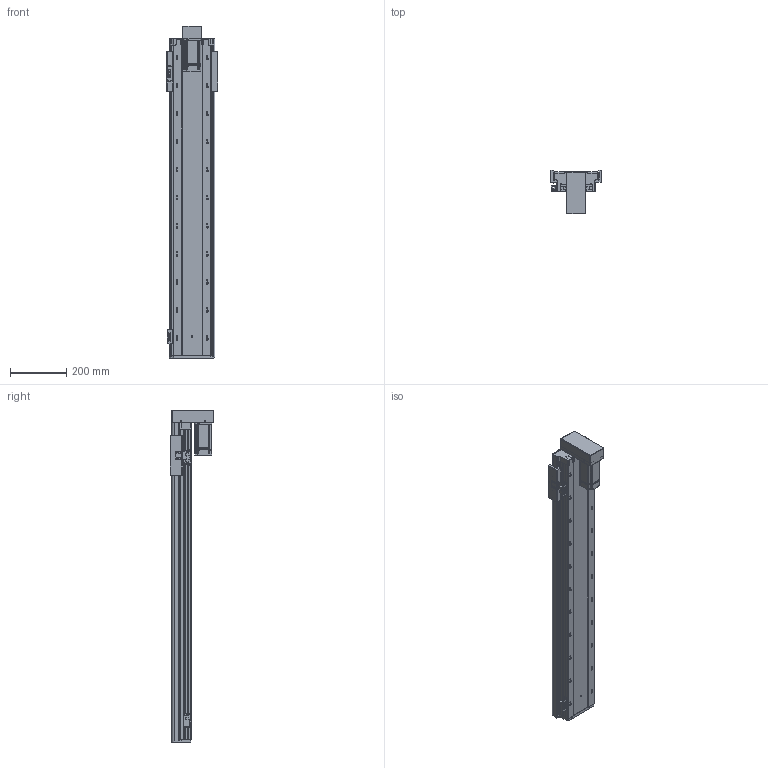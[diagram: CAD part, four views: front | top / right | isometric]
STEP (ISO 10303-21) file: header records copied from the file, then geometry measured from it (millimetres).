
FILE_DESCRIPTION (( 'STEP AP203' ), '1' );
FILE_NAME ('RY140FB-L2010-300-BK.SLDASM_900.step', '2021-02-23T02:29:07', ( '盈信电脑' ), ( '东莞市道滘镇水果街19号' ), 'SwSTEP 2.0', 'SolidWorks 2012', '' );
FILE_SCHEMA (( 'CONFIG_CONTROL_DESIGN' ));
Length unit declared in the file: millimetre
Products named in the file (17): RY140-674嫖萇耀輸; RY140FB-覜茼え; RY140FB-L2010-300-BK.SLDASM_900; RY140直线电机感应器674光电安装座; 覜茼ん674; RY140FB-300蛌殏奻裔啣-BK_900; 侂狟400W侜督萇儂; RY140狟殏萇儂欶; RY140FB-20佪裝臏賑輸; RY140FB-狟殏萇儂假蚾啣; 滅袉蝶18-10; RY140FB-转折电机端支撑座(7002); 滅袉蝶18-24; 15; RY140FB-綴裔啣; RY140FB-300蛌殏倰第菁釱-BK_900
Assembly tree (20 placements, depth 3):
  RY140FB-L2010-300-BK.SLDASM_900
    RY140FB-300蛌殏倰第菁釱-BK_900
    RY140FB-綴裔啣
    滅袉蝶18-24  x2
    滅袉蝶18-10
    RY140FB-转折电机端支撑座(7002)
    侂狟400W侜督萇儂
      15
    RY140狟殏萇儂欶
    RY140FB-狟殏萇儂假蚾啣
    RY140FB-20佪裝臏賑輸
    RY140FB-300蛌殏奻裔啣-BK_900
    RY140-674嫖萇耀輸
      覜茼ん674  x2
      RY140直线电机感应器674光电安装座
    RY140-674嫖萇耀輸
      RY140直线电机感应器674光电安装座
      覜茼ん674
    RY140FB-覜茼え
Bounding box: 183 x 156 x 1184 mm (x, y, z)
Volume: 4469162.6 mm3; surface area: 1482135.8 mm2
Topology: 17 solids, 17 shells, 1858 faces, 5141 edges, 3265 vertices
Faces by surface type: cylinder 929, plane 719, cone 182, bspline 28
Entity records: 56707 total; most frequent: CARTESIAN_POINT 11679, DIRECTION 9118, ORIENTED_EDGE 8966, EDGE_CURVE 4483, AXIS2_PLACEMENT_3D 3304, VERTEX_POINT 2933, LINE 2510, VECTOR 2510
